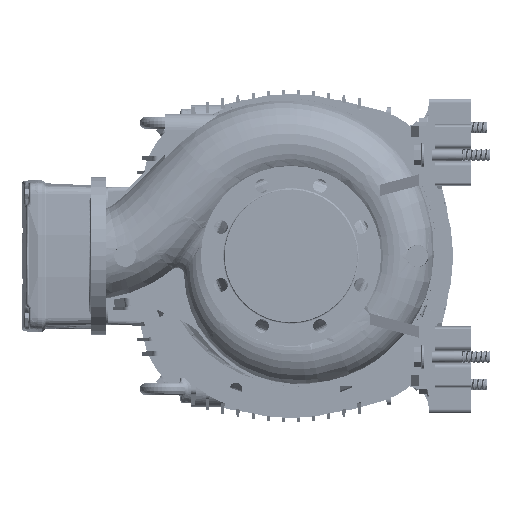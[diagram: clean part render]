
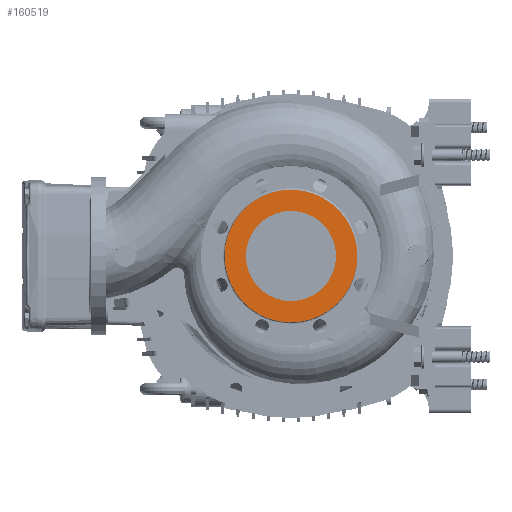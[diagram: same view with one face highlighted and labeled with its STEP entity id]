
A CAD part, left-side view. The second image highlights one B-rep face of the part: STEP entity #160519.
In plain terms, the highlighted planar face has unit normal (-1, 0, 0).
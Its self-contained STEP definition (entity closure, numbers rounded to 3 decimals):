
#4048 = EDGE_CURVE ( 'NONE', #145655, #22331, #102300, .T. ) ;
#4867 = CARTESIAN_POINT ( 'NONE',  ( -125., 32.548, -86.419 ) ) ;
#7958 = DIRECTION ( 'NONE',  ( -1., 0., 0. ) ) ;
#8196 = CARTESIAN_POINT ( 'NONE',  ( -125., 92., 0. ) ) ;
#12634 = CARTESIAN_POINT ( 'NONE',  ( -125., 0., 62.5 ) ) ;
#17064 = CARTESIAN_POINT ( 'NONE',  ( -125., 58.458, 71.231 ) ) ;
#17882 = CARTESIAN_POINT ( 'NONE',  ( -125., -92., 6.021 ) ) ;
#18009 = DIRECTION ( 'NONE',  ( 0., 0., -1. ) ) ;
#20368 = CARTESIAN_POINT ( 'NONE',  ( -125., 92., 3.009 ) ) ;
#21591 = CARTESIAN_POINT ( 'NONE',  ( -125., 88.18, -26.749 ) ) ;
#22331 = VERTEX_POINT ( 'NONE', #33955 ) ;
#27734 = AXIS2_PLACEMENT_3D ( 'NONE', #58943, #30415, #81634 ) ;
#29200 = CARTESIAN_POINT ( 'NONE',  ( -125., -85.545, -35.434 ) ) ;
#29635 = CARTESIAN_POINT ( 'NONE',  ( -125., 88.18, 26.749 ) ) ;
#29888 = AXIS2_PLACEMENT_3D ( 'NONE', #106975, #158191, #18009 ) ;
#30019 = CARTESIAN_POINT ( 'NONE',  ( -125., 0.001, -92.593 ) ) ;
#30415 = DIRECTION ( 'NONE',  ( 1., 0., 0. ) ) ;
#33337 = CARTESIAN_POINT ( 'NONE',  ( -125., 66.273, -64.149 ) ) ;
#33955 = CARTESIAN_POINT ( 'NONE',  ( -125., 0., -62.5 ) ) ;
#42621 = CARTESIAN_POINT ( 'NONE',  ( -125., -51.442, -76.988 ) ) ;
#43070 = CARTESIAN_POINT ( 'NONE',  ( -125., -76.988, 51.442 ) ) ;
#43103 = CIRCLE ( 'NONE', #120750, 62.5 ) ;
#43300 = ORIENTED_EDGE ( 'NONE', *, *, #45779, .F. ) ;
#45107 = CARTESIAN_POINT ( 'NONE',  ( -125., 74.163, -55.003 ) ) ;
#45779 = EDGE_CURVE ( 'NONE', #22331, #145655, #43103, .T. ) ;
#55662 = CARTESIAN_POINT ( 'NONE',  ( -125., -51.442, 76.988 ) ) ;
#56063 = CARTESIAN_POINT ( 'NONE',  ( -125., 43.438, -81.267 ) ) ;
#56066 = EDGE_CURVE ( 'NONE', #97560, #86016, #59023, .T. ) ;
#56511 = CARTESIAN_POINT ( 'NONE',  ( -125., 32.548, 86.419 ) ) ;
#57337 = CARTESIAN_POINT ( 'NONE',  ( -125., 92., 0. ) ) ;
#58162 = CARTESIAN_POINT ( 'NONE',  ( -125., 18.062, 90.815 ) ) ;
#58542 = CARTESIAN_POINT ( 'NONE',  ( -125., 80.624, -44.798 ) ) ;
#58943 = CARTESIAN_POINT ( 'NONE',  ( -125., -93.104, 93.104 ) ) ;
#59023 = B_SPLINE_CURVE_WITH_KNOTS ( 'NONE', 3,
 ( #57337, #20368, #109333, #132060, #29635, #159718, #134548, #95933, #70773, #17064, #68285, #119468, #56511, #58162, #121949, #96780, #147973, #55662, #106845, #43070, #94286, #145481, #17882, #158901 ),
 .UNSPECIFIED., .F., .F.,
 ( 4, 1, 1, 1, 1, 1, 1, 1, 1, 1, 1, 1, 1, 1, 1, 1, 1, 1, 1, 1, 1, 4 ),
 ( 0., 0.009, 0.018, 0.027, 0.036, 0.045, 0.059, 0.073, 0.082, 0.091, 0.1, 0.109, 0.127, 0.145, 0.163, 0.181, 0.199, 0.218, 0.236, 0.254, 0.272, 0.29 ),
 .UNSPECIFIED. ) ;
#59152 = DIRECTION ( 'NONE',  ( 0., 0., -1. ) ) ;
#59185 = EDGE_LOOP ( 'NONE', ( #43300, #77306 ) ) ;
#60215 = CARTESIAN_POINT ( 'NONE',  ( -125., 58.458, -71.231 ) ) ;
#60725 = CARTESIAN_POINT ( 'NONE',  ( -125., 92., 0. ) ) ;
#67846 = CARTESIAN_POINT ( 'NONE',  ( -125., -92., 0. ) ) ;
#68285 = CARTESIAN_POINT ( 'NONE',  ( -125., 51.195, 76.618 ) ) ;
#70773 = CARTESIAN_POINT ( 'NONE',  ( -125., 66.273, 64.149 ) ) ;
#71168 = B_SPLINE_CURVE_WITH_KNOTS ( 'NONE', 3,
 ( #67846, #144206, #155150, #29200, #131628, #119025, #42621, #93846, #145035, #30019, #119837, #4867, #56063, #150021, #60215, #33337, #45107, #58542, #146679, #21591, #72820, #160095, #134110, #8196 ),
 .UNSPECIFIED., .F., .F.,
 ( 4, 1, 1, 1, 1, 1, 1, 1, 1, 1, 1, 1, 1, 1, 1, 1, 1, 1, 1, 1, 1, 4 ),
 ( 0., 0.018, 0.036, 0.054, 0.072, 0.091, 0.109, 0.127, 0.145, 0.163, 0.181, 0.19, 0.199, 0.208, 0.217, 0.231, 0.244, 0.254, 0.263, 0.272, 0.281, 0.29 ),
 .UNSPECIFIED. ) ;
#72820 = CARTESIAN_POINT ( 'NONE',  ( -125., 90.377, -17.977 ) ) ;
#77306 = ORIENTED_EDGE ( 'NONE', *, *, #4048, .F. ) ;
#81634 = DIRECTION ( 'NONE',  ( 0., 0., -1. ) ) ;
#86016 = VERTEX_POINT ( 'NONE', #117719 ) ;
#86821 = CARTESIAN_POINT ( 'NONE',  ( -125., 0., 0. ) ) ;
#93846 = CARTESIAN_POINT ( 'NONE',  ( -125., -35.434, -85.545 ) ) ;
#94286 = CARTESIAN_POINT ( 'NONE',  ( -125., -85.545, 35.434 ) ) ;
#95933 = CARTESIAN_POINT ( 'NONE',  ( -125., 74.163, 55.003 ) ) ;
#96780 = CARTESIAN_POINT ( 'NONE',  ( -125., -18.064, 90.814 ) ) ;
#97560 = VERTEX_POINT ( 'NONE', #60725 ) ;
#100480 = ORIENTED_EDGE ( 'NONE', *, *, #126642, .F. ) ;
#102300 = CIRCLE ( 'NONE', #29888, 62.5 ) ;
#106845 = CARTESIAN_POINT ( 'NONE',  ( -125., -65.473, 65.473 ) ) ;
#106975 = CARTESIAN_POINT ( 'NONE',  ( -125., 0., 0. ) ) ;
#109333 = CARTESIAN_POINT ( 'NONE',  ( -125., 91.704, 9.033 ) ) ;
#117719 = CARTESIAN_POINT ( 'NONE',  ( -125., -92., 0. ) ) ;
#119025 = CARTESIAN_POINT ( 'NONE',  ( -125., -65.473, -65.473 ) ) ;
#119468 = CARTESIAN_POINT ( 'NONE',  ( -125., 43.438, 81.267 ) ) ;
#119837 = CARTESIAN_POINT ( 'NONE',  ( -125., 18.062, -90.815 ) ) ;
#120750 = AXIS2_PLACEMENT_3D ( 'NONE', #86821, #7958, #59152 ) ;
#121063 = PLANE ( 'NONE',  #27734 ) ;
#121949 = CARTESIAN_POINT ( 'NONE',  ( -125., 0.001, 92.593 ) ) ;
#126642 = EDGE_CURVE ( 'NONE', #86016, #97560, #71168, .T. ) ;
#131628 = CARTESIAN_POINT ( 'NONE',  ( -125., -76.988, -51.442 ) ) ;
#132060 = CARTESIAN_POINT ( 'NONE',  ( -125., 90.377, 17.977 ) ) ;
#134110 = CARTESIAN_POINT ( 'NONE',  ( -125., 92., -3.009 ) ) ;
#134548 = CARTESIAN_POINT ( 'NONE',  ( -125., 80.624, 44.798 ) ) ;
#144206 = CARTESIAN_POINT ( 'NONE',  ( -125., -92., -6.021 ) ) ;
#145035 = CARTESIAN_POINT ( 'NONE',  ( -125., -18.064, -90.814 ) ) ;
#145422 = FACE_OUTER_BOUND ( 'NONE', #154124, .T. ) ;
#145481 = CARTESIAN_POINT ( 'NONE',  ( -125., -90.814, 18.064 ) ) ;
#145655 = VERTEX_POINT ( 'NONE', #12634 ) ;
#146679 = CARTESIAN_POINT ( 'NONE',  ( -125., 85.133, -35.264 ) ) ;
#147973 = CARTESIAN_POINT ( 'NONE',  ( -125., -35.434, 85.545 ) ) ;
#150021 = CARTESIAN_POINT ( 'NONE',  ( -125., 51.195, -76.618 ) ) ;
#150573 = ORIENTED_EDGE ( 'NONE', *, *, #56066, .F. ) ;
#154124 = EDGE_LOOP ( 'NONE', ( #100480, #150573 ) ) ;
#155150 = CARTESIAN_POINT ( 'NONE',  ( -125., -90.814, -18.064 ) ) ;
#158191 = DIRECTION ( 'NONE',  ( -1., 0., 0. ) ) ;
#158901 = CARTESIAN_POINT ( 'NONE',  ( -125., -92., 0. ) ) ;
#159664 = FACE_BOUND ( 'NONE', #59185, .T. ) ;
#159718 = CARTESIAN_POINT ( 'NONE',  ( -125., 85.133, 35.264 ) ) ;
#160095 = CARTESIAN_POINT ( 'NONE',  ( -125., 91.704, -9.033 ) ) ;
#160519 = ADVANCED_FACE ( 'NONE', ( #159664, #145422 ), #121063, .F. ) ;
